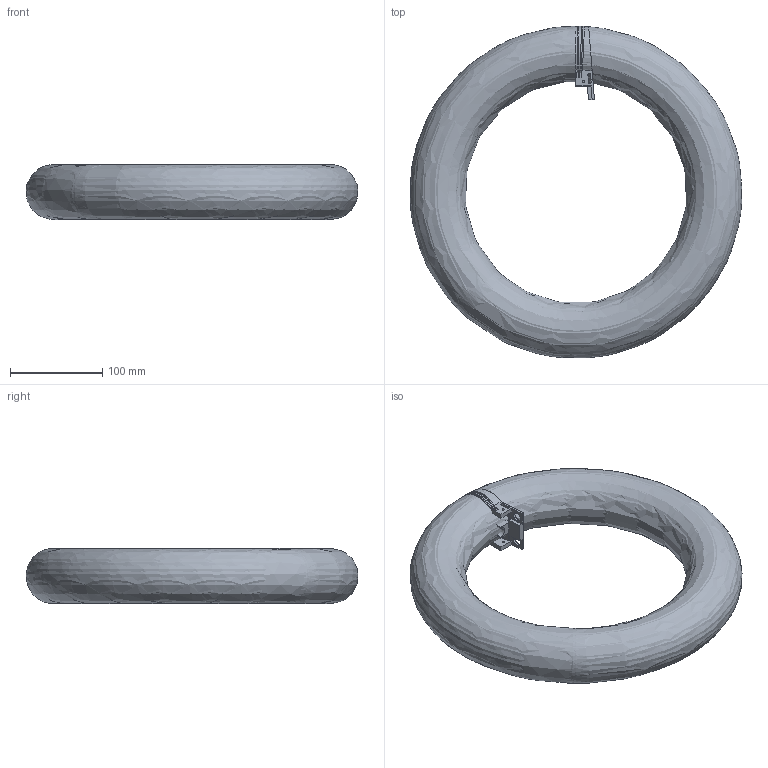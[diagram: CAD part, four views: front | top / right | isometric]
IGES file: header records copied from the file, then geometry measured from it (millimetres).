
Start section: IMSI TurboCAD v14.0
Global section: author: NULL; organization: NULL; date: 20250711.181317; units: millimetre
Bounding box: 359.35 x 359.03 x 59.6 mm (x, y, z)
Surface area: 371942 mm2 (no closed solid volume)
Topology: 0 solids, 0 shells, 105 faces, 678 edges, 678 vertices
Faces by surface type: revolution 56, extrusion 49
